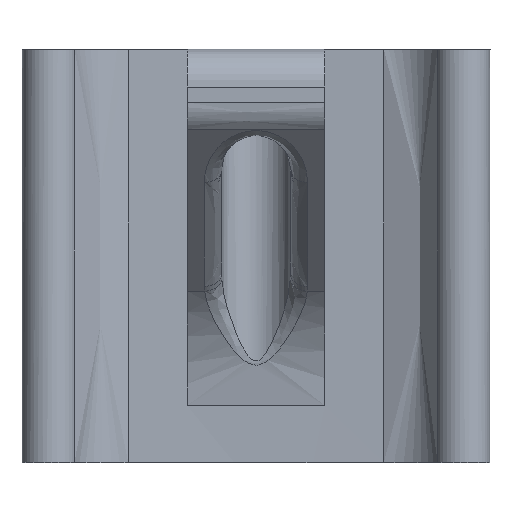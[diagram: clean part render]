
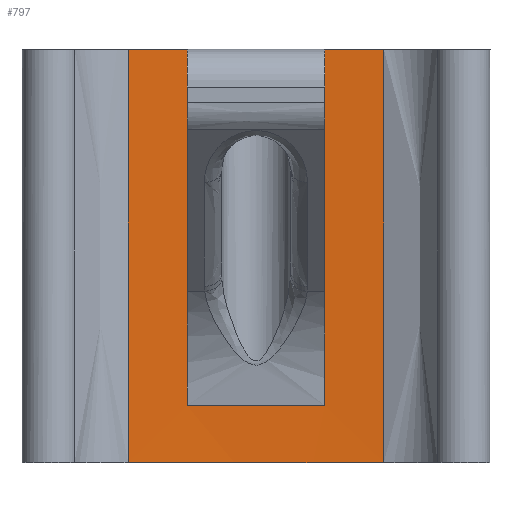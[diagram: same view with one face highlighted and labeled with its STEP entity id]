
A CAD part, top view. The second image highlights one B-rep face of the part: STEP entity #797.
In plain terms, the highlighted free-form (B-spline) face has degree [5, 1] with [13, 2] control points.
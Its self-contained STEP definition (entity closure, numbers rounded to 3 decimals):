
#17=(
BOUNDED_CURVE()
B_SPLINE_CURVE(5,(#1916,#1917,#1918,#1919,#1920,#1921,#1922),
 .UNSPECIFIED.,.F.,.F.)
B_SPLINE_CURVE_WITH_KNOTS((6,1,6),(0.61,0.7,0.715),
 .UNSPECIFIED.)
CURVE()
GEOMETRIC_REPRESENTATION_ITEM()
RATIONAL_B_SPLINE_CURVE((1.,1.,1.,1.,1.,1.,1.))
REPRESENTATION_ITEM('')
);
#18=(
BOUNDED_CURVE()
B_SPLINE_CURVE(5,(#1944,#1945,#1946,#1947,#1948,#1949,#1950),
 .UNSPECIFIED.,.F.,.F.)
B_SPLINE_CURVE_WITH_KNOTS((6,1,6),(0.285,0.3,0.39),
 .UNSPECIFIED.)
CURVE()
GEOMETRIC_REPRESENTATION_ITEM()
RATIONAL_B_SPLINE_CURVE((1.,1.,1.,1.,1.,1.,1.))
REPRESENTATION_ITEM('')
);
#19=(
BOUNDED_CURVE()
B_SPLINE_CURVE(5,(#2581,#2582,#2583,#2584,#2585,#2586,#2587,#2588,#2589,
#2590,#2591),.UNSPECIFIED.,.F.,.F.)
B_SPLINE_CURVE_WITH_KNOTS((6,1,1,1,1,1,6),(0.285,0.3,0.4,0.5,
0.6,0.7,0.715),.UNSPECIFIED.)
CURVE()
GEOMETRIC_REPRESENTATION_ITEM()
RATIONAL_B_SPLINE_CURVE((1.,1.,1.,1.,1.,1.,1.,1.,1.,1.,1.))
REPRESENTATION_ITEM('')
);
#22=(
BOUNDED_SURFACE()
B_SPLINE_SURFACE(5,1,((#2549,#2550),(#2551,#2552),(#2553,#2554),(#2555,
#2556),(#2557,#2558),(#2559,#2560),(#2561,#2562),(#2563,#2564),(#2565,#2566),
(#2567,#2568),(#2569,#2570),(#2571,#2572),(#2573,#2574)),.UNSPECIFIED.,
 .F.,.F.,.F.)
B_SPLINE_SURFACE_WITH_KNOTS((6,1,1,1,1,1,1,1,6),(2,2),(0.154,
0.2,0.3,0.4,0.5,0.6,0.7,0.8,0.846),(0.,6.),.UNSPECIFIED.)
GEOMETRIC_REPRESENTATION_ITEM()
RATIONAL_B_SPLINE_SURFACE(((1.,1.),(1.,1.),(1.,1.),(1.,1.),(1.,1.),(1.,
1.),(1.,1.),(1.,1.),(1.,1.),(1.,1.),(1.,1.),(1.,1.),(1.,1.)))
REPRESENTATION_ITEM('')
SURFACE()
);
#95=B_SPLINE_CURVE_WITH_KNOTS('',3,(#2543,#2544,#2545,#2546,#2547,#2548),
 .UNSPECIFIED.,.F.,.F.,(4,1,1,4),(0.02,0.581,
1.146,1.99),.UNSPECIFIED.);
#96=B_SPLINE_CURVE_WITH_KNOTS('',3,(#2576,#2577,#2578,#2579),
 .UNSPECIFIED.,.F.,.F.,(4,4),(0.,6.),.UNSPECIFIED.);
#97=B_SPLINE_CURVE_WITH_KNOTS('',3,(#2592,#2593,#2594,#2595),
 .UNSPECIFIED.,.F.,.F.,(4,4),(-6.,0.),.UNSPECIFIED.);
#164=FACE_OUTER_BOUND('',#215,.T.);
#215=EDGE_LOOP('',(#710,#711,#712,#713,#714,#715,#716,#717));
#249=LINE('',#2042,#279);
#251=LINE('',#2053,#281);
#279=VECTOR('',#976,10.);
#281=VECTOR('',#982,10.);
#365=VERTEX_POINT('',#1913);
#366=VERTEX_POINT('',#1915);
#369=VERTEX_POINT('',#1935);
#370=VERTEX_POINT('',#1943);
#374=VERTEX_POINT('',#1998);
#376=VERTEX_POINT('',#2052);
#388=VERTEX_POINT('',#2575);
#389=VERTEX_POINT('',#2580);
#465=EDGE_CURVE('',#365,#366,#17,.T.);
#471=EDGE_CURVE('',#369,#370,#18,.T.);
#477=EDGE_CURVE('',#374,#365,#249,.T.);
#480=EDGE_CURVE('',#376,#370,#251,.T.);
#504=EDGE_CURVE('',#376,#374,#95,.T.);
#505=EDGE_CURVE('',#388,#369,#96,.T.);
#506=EDGE_CURVE('',#388,#389,#19,.T.);
#507=EDGE_CURVE('',#366,#389,#97,.T.);
#710=ORIENTED_EDGE('',*,*,#477,.F.);
#711=ORIENTED_EDGE('',*,*,#504,.F.);
#712=ORIENTED_EDGE('',*,*,#480,.T.);
#713=ORIENTED_EDGE('',*,*,#471,.F.);
#714=ORIENTED_EDGE('',*,*,#505,.F.);
#715=ORIENTED_EDGE('',*,*,#506,.T.);
#716=ORIENTED_EDGE('',*,*,#507,.F.);
#717=ORIENTED_EDGE('',*,*,#465,.F.);
#797=ADVANCED_FACE('',(#164),#22,.T.);
#976=DIRECTION('',(0.,1.,0.));
#982=DIRECTION('',(0.,1.,0.));
#1913=CARTESIAN_POINT('',(40.,60.,-3.998));
#1915=CARTESIAN_POINT('',(48.572,60.,-3.706));
#1916=CARTESIAN_POINT('Ctrl Pts',(40.,60.,-3.998));
#1917=CARTESIAN_POINT('Ctrl Pts',(41.589,60.,-3.988));
#1918=CARTESIAN_POINT('Ctrl Pts',(43.393,60.,-3.965));
#1919=CARTESIAN_POINT('Ctrl Pts',(45.132,60.,-3.921));
#1920=CARTESIAN_POINT('Ctrl Pts',(46.791,60.,-3.845));
#1921=CARTESIAN_POINT('Ctrl Pts',(48.355,60.,-3.724));
#1922=CARTESIAN_POINT('Ctrl Pts',(48.572,60.,-3.706));
#1935=CARTESIAN_POINT('',(11.428,60.,-3.706));
#1943=CARTESIAN_POINT('',(20.,60.,-3.998));
#1944=CARTESIAN_POINT('Ctrl Pts',(11.428,60.,-3.706));
#1945=CARTESIAN_POINT('Ctrl Pts',(11.645,60.,-3.724));
#1946=CARTESIAN_POINT('Ctrl Pts',(13.209,60.,-3.845));
#1947=CARTESIAN_POINT('Ctrl Pts',(14.868,60.,-3.921));
#1948=CARTESIAN_POINT('Ctrl Pts',(16.607,60.,-3.965));
#1949=CARTESIAN_POINT('Ctrl Pts',(18.411,60.,-3.988));
#1950=CARTESIAN_POINT('Ctrl Pts',(20.,60.,-3.998));
#1998=CARTESIAN_POINT('',(40.,8.266,-3.998));
#2042=CARTESIAN_POINT('',(40.,60.,-3.998));
#2052=CARTESIAN_POINT('',(20.,8.266,-3.998));
#2053=CARTESIAN_POINT('',(20.,60.,-3.998));
#2543=CARTESIAN_POINT('Ctrl Pts',(20.,8.266,-3.998));
#2544=CARTESIAN_POINT('Ctrl Pts',(22.017,8.266,-4.011));
#2545=CARTESIAN_POINT('Ctrl Pts',(25.837,8.266,-4.004));
#2546=CARTESIAN_POINT('Ctrl Pts',(32.305,8.266,-3.995));
#2547=CARTESIAN_POINT('Ctrl Pts',(36.966,8.266,-4.017));
#2548=CARTESIAN_POINT('Ctrl Pts',(40.,8.266,-3.998));
#2549=CARTESIAN_POINT('Ctrl Pts',(3.516,0.,-1.907));
#2550=CARTESIAN_POINT('Ctrl Pts',(3.516,60.,-1.907));
#2551=CARTESIAN_POINT('Ctrl Pts',(3.93,0.,-2.123));
#2552=CARTESIAN_POINT('Ctrl Pts',(3.93,60.,-2.123));
#2553=CARTESIAN_POINT('Ctrl Pts',(5.325,0.,-2.743));
#2554=CARTESIAN_POINT('Ctrl Pts',(5.325,60.,-2.743));
#2555=CARTESIAN_POINT('Ctrl Pts',(8.129,0.,-3.491));
#2556=CARTESIAN_POINT('Ctrl Pts',(8.129,60.,-3.491));
#2557=CARTESIAN_POINT('Ctrl Pts',(13.031,0.,-3.979));
#2558=CARTESIAN_POINT('Ctrl Pts',(13.031,60.,-3.979));
#2559=CARTESIAN_POINT('Ctrl Pts',(20.633,0.,-4.039));
#2560=CARTESIAN_POINT('Ctrl Pts',(20.633,60.,-4.039));
#2561=CARTESIAN_POINT('Ctrl Pts',(30.,0.,-3.97));
#2562=CARTESIAN_POINT('Ctrl Pts',(30.,60.,-3.97));
#2563=CARTESIAN_POINT('Ctrl Pts',(39.367,0.,-4.039));
#2564=CARTESIAN_POINT('Ctrl Pts',(39.367,60.,-4.039));
#2565=CARTESIAN_POINT('Ctrl Pts',(46.969,0.,-3.979));
#2566=CARTESIAN_POINT('Ctrl Pts',(46.969,60.,-3.979));
#2567=CARTESIAN_POINT('Ctrl Pts',(51.871,0.,-3.491));
#2568=CARTESIAN_POINT('Ctrl Pts',(51.871,60.,-3.491));
#2569=CARTESIAN_POINT('Ctrl Pts',(54.675,0.,-2.743));
#2570=CARTESIAN_POINT('Ctrl Pts',(54.675,60.,-2.743));
#2571=CARTESIAN_POINT('Ctrl Pts',(56.07,0.,-2.123));
#2572=CARTESIAN_POINT('Ctrl Pts',(56.07,60.,-2.123));
#2573=CARTESIAN_POINT('Ctrl Pts',(56.484,0.,-1.907));
#2574=CARTESIAN_POINT('Ctrl Pts',(56.484,60.,-1.907));
#2575=CARTESIAN_POINT('',(11.428,0.,-3.706));
#2576=CARTESIAN_POINT('Ctrl Pts',(11.428,0.,-3.706));
#2577=CARTESIAN_POINT('Ctrl Pts',(11.428,20.,-3.706));
#2578=CARTESIAN_POINT('Ctrl Pts',(11.428,40.,-3.706));
#2579=CARTESIAN_POINT('Ctrl Pts',(11.428,60.,-3.706));
#2580=CARTESIAN_POINT('',(48.572,0.,-3.706));
#2581=CARTESIAN_POINT('Ctrl Pts',(11.428,0.,-3.706));
#2582=CARTESIAN_POINT('Ctrl Pts',(11.645,0.,-3.724));
#2583=CARTESIAN_POINT('Ctrl Pts',(13.351,0.,-3.856));
#2584=CARTESIAN_POINT('Ctrl Pts',(16.756,0.,-4.003));
#2585=CARTESIAN_POINT('Ctrl Pts',(22.23,0.,-4.027));
#2586=CARTESIAN_POINT('Ctrl Pts',(30.,0.,-3.97));
#2587=CARTESIAN_POINT('Ctrl Pts',(37.77,0.,-4.027));
#2588=CARTESIAN_POINT('Ctrl Pts',(43.244,0.,-4.003));
#2589=CARTESIAN_POINT('Ctrl Pts',(46.649,0.,-3.856));
#2590=CARTESIAN_POINT('Ctrl Pts',(48.355,0.,-3.724));
#2591=CARTESIAN_POINT('Ctrl Pts',(48.572,0.,-3.706));
#2592=CARTESIAN_POINT('Ctrl Pts',(48.572,60.,-3.706));
#2593=CARTESIAN_POINT('Ctrl Pts',(48.572,40.,-3.706));
#2594=CARTESIAN_POINT('Ctrl Pts',(48.572,20.,-3.706));
#2595=CARTESIAN_POINT('Ctrl Pts',(48.572,0.,-3.706));
